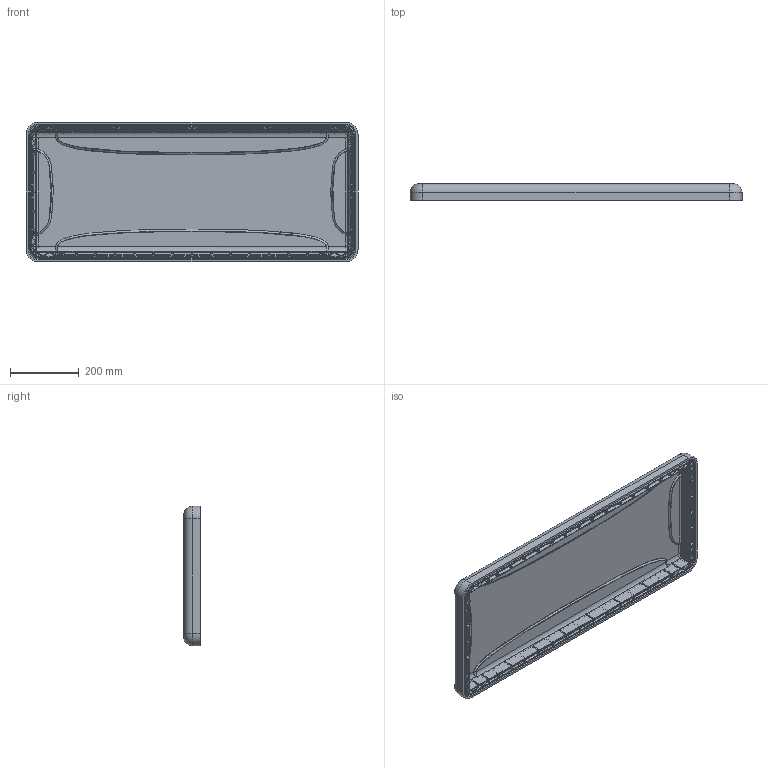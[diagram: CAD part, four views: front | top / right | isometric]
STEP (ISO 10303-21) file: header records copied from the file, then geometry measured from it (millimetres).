
FILE_DESCRIPTION (( 'STEP AP203' ), '1' );
FILE_NAME ('985_Top_INNER_SURFACES.STEP', '2019-04-16T18:06:16', ( '' ), ( '' ), 'SwSTEP 2.0', 'SolidWorks 2018', '' );
FILE_SCHEMA (( 'CONFIG_CONTROL_DESIGN' ));
Length unit declared in the file: inch
Products named in the file (1): 985_Top_INNER_SURFACES
Bounding box: 967.49 x 48.26 x 407.26 mm (x, y, z)
Volume: 5460769.5 mm3; surface area: 1185356.6 mm2
Topology: 1 solids, 1 shells, 3632 faces, 8661 edges, 5006 vertices
Faces by surface type: bspline 1486, cylinder 1110, plane 587, sphere 205, torus 126, cone 118
Entity records: 174563 total; most frequent: CARTESIAN_POINT 104715, ORIENTED_EDGE 16816, DIRECTION 12062, EDGE_CURVE 8408, VERTEX_POINT 4889, AXIS2_PLACEMENT_3D 4750, EDGE_LOOP 3743, FACE_OUTER_BOUND 3632
